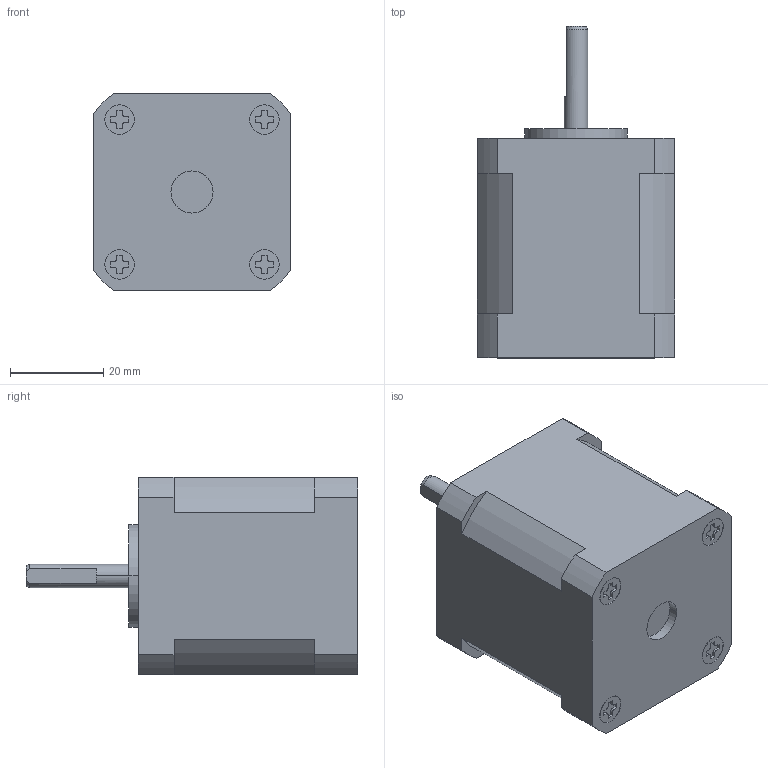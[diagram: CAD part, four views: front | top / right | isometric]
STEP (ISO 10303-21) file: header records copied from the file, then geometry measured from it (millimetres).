
FILE_DESCRIPTION((''),'2;1');
FILE_NAME('42H047HT-1805-001','2025-07-07T17:51:23',('CZ28555'),(''),'CREO PARAMETRIC BY PTC INC, 2018100','CREO PARAMETRIC BY PTC INC, 2018100','');
FILE_SCHEMA(('CONFIG_CONTROL_DESIGN'));
Length unit declared in the file: millimetre
Products named in the file (1): 42H047HT-1805-001
Bounding box: 42.2 x 71 x 42.2 mm (x, y, z)
Volume: 80560.4 mm3; surface area: 11992.3 mm2
Topology: 1 solids, 5 shells, 152 faces, 399 edges, 262 vertices
Faces by surface type: plane 81, cylinder 62, cone 9
Entity records: 4703 total; most frequent: DIRECTION 830, CARTESIAN_POINT 816, ORIENTED_EDGE 766, EDGE_CURVE 391, AXIS2_PLACEMENT_3D 288, VERTEX_POINT 262, VECTOR 254, LINE 254
